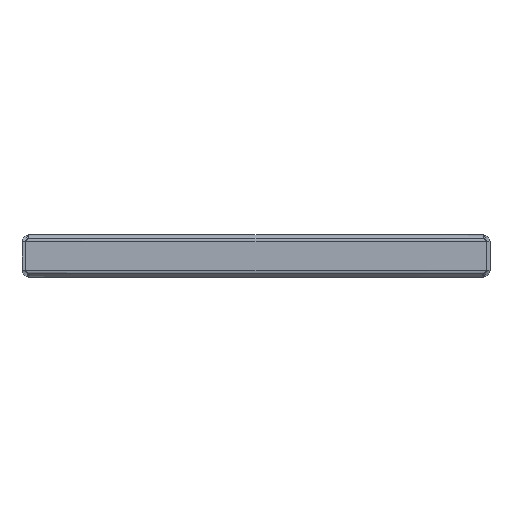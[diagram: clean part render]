
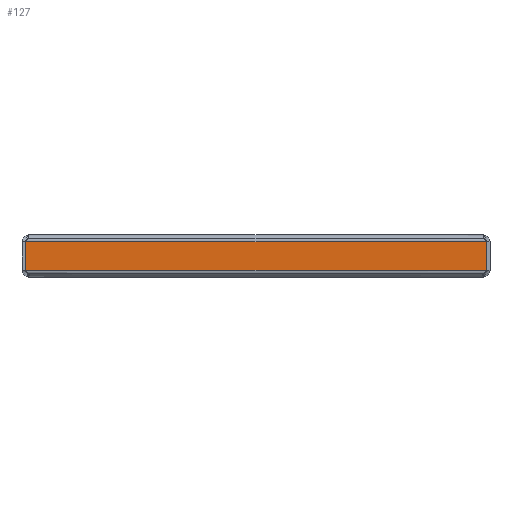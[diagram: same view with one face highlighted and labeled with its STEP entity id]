
A CAD part, front view. The second image highlights one B-rep face of the part: STEP entity #127.
In plain terms, the highlighted planar face has unit normal (0, -1, 0).
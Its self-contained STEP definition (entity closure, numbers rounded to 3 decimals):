
#127=ADVANCED_FACE('',(#1219),#1221,.F.);
#1219=FACE_BOUND('',#1220,.T.);
#1220=EDGE_LOOP('',(#2261,#2262,#2263,#2264));
#1221=PLANE('',#1222);
#1222=AXIS2_PLACEMENT_3D('',#1223,#1224,#1225);
#1223=CARTESIAN_POINT('',(0.,-866.5,0.));
#1224=DIRECTION('',(0.,1.,0.));
#1225=DIRECTION('',(-1.,0.,0.));
#2261=ORIENTED_EDGE('',*,*,#2707,.F.);
#2262=ORIENTED_EDGE('',*,*,#2709,.F.);
#2263=ORIENTED_EDGE('',*,*,#2710,.F.);
#2264=ORIENTED_EDGE('',*,*,#2711,.F.);
#2707=EDGE_CURVE('',#3140,#3134,#3143,.T.);
#2709=EDGE_CURVE('',#3145,#3140,#3146,.T.);
#2710=EDGE_CURVE('',#3147,#3145,#3148,.T.);
#2711=EDGE_CURVE('',#3134,#3147,#3149,.T.);
#3134=VERTEX_POINT('',#4704);
#3140=VERTEX_POINT('',#4877);
#3143=LINE('',#4939,#4940);
#3145=VERTEX_POINT('',#4945);
#3146=LINE('',#4946,#4947);
#3147=VERTEX_POINT('',#4949);
#3148=LINE('',#4950,#4951);
#3149=LINE('',#4953,#4954);
#4704=CARTESIAN_POINT('',(136.823,-866.5,-4.));
#4877=CARTESIAN_POINT('',(-136.823,-866.5,-4.));
#4939=CARTESIAN_POINT('',(-136.823,-866.5,-4.));
#4940=VECTOR('',#4941,1.);
#4941=DIRECTION('',(1.,0.,0.));
#4945=CARTESIAN_POINT('',(-136.823,-866.5,-21.));
#4946=CARTESIAN_POINT('',(-136.823,-866.5,-21.));
#4947=VECTOR('',#4948,1.);
#4948=DIRECTION('',(0.,0.,1.));
#4949=CARTESIAN_POINT('',(136.823,-866.5,-21.));
#4950=CARTESIAN_POINT('',(136.823,-866.5,-21.));
#4951=VECTOR('',#4952,1.);
#4952=DIRECTION('',(-1.,0.,0.));
#4953=CARTESIAN_POINT('',(136.823,-866.5,-4.));
#4954=VECTOR('',#4955,1.);
#4955=DIRECTION('',(0.,0.,-1.));
